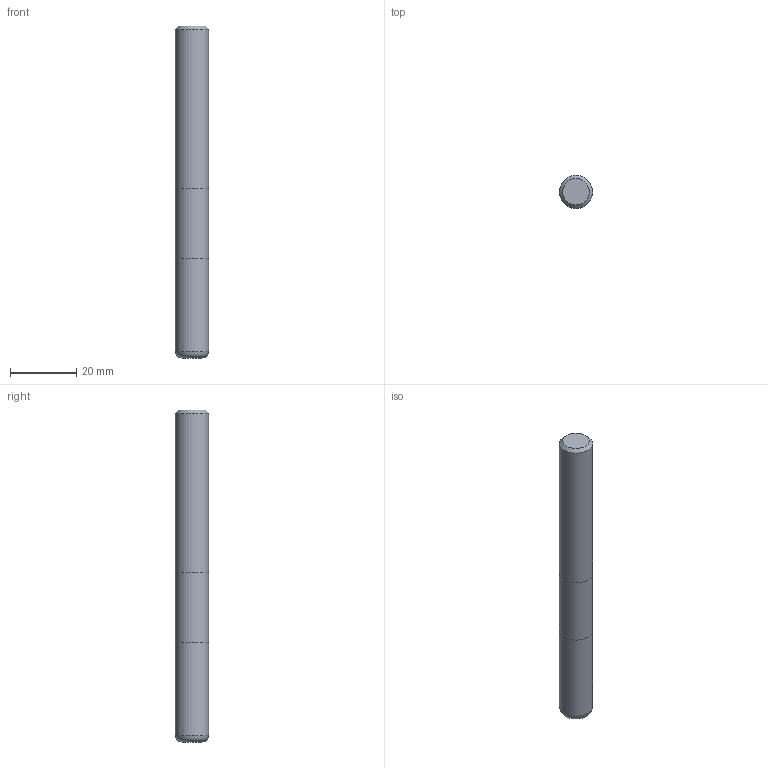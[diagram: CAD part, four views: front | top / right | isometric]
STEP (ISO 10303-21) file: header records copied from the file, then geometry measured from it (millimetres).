
FILE_DESCRIPTION((''),'2;1');
FILE_NAME('C:\Users\nsx150\AppData\Local\Temp\Mastercam 2021\03UJLO2QV3\TEMP.step','2023-09-20T09:30:11',(''),(''),'STEP Write','Mastercam 2021 ... CNC Software, Inc.','');
FILE_SCHEMA(('AUTOMOTIVE_DESIGN'));
Length unit declared in the file: millimetre
Products named in the file (1): None
Bounding box: 10 x 10 x 100 mm (x, y, z)
Volume: 7814.8 mm3; surface area: 3407.3 mm2
Topology: 2 solids, 2 shells, 9 faces, 12 edges, 7 vertices
Faces by surface type: plane 4, cylinder 3, torus 1, cone 1
Full cylindrical faces by diameter (mm): 10 x3
Entity records: 211 total; most frequent: DIRECTION 36, CARTESIAN_POINT 25, AXIS2_PLACEMENT_3D 18, ORIENTED_EDGE 14, EDGE_LOOP 14, STYLED_ITEM 12, ADVANCED_FACE 9, FACE_BOUND 9
